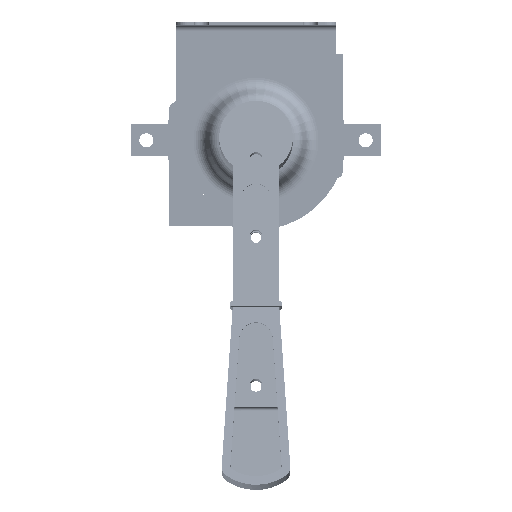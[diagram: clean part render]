
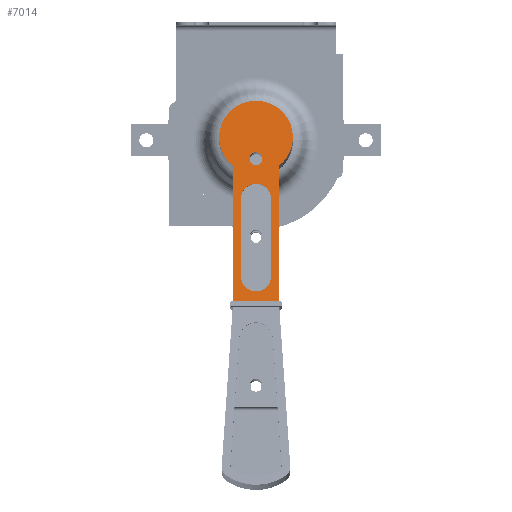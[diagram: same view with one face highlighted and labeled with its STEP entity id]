
A CAD part, left-side view. The second image highlights one B-rep face of the part: STEP entity #7014.
In plain terms, the highlighted planar face has unit normal (-0.992, 0, 0.128) as drawn and (0, -1, 0) by its records, which use the part's own axes.
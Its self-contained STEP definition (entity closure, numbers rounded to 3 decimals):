
#2685 = CIRCLE ( 'NONE', #14046, 7. ) ;
#3406 = EDGE_CURVE ( 'NONE', #15334, #81873, #38505, .T. ) ;
#3743 = EDGE_CURVE ( 'NONE', #81873, #26902, #5413, .T. ) ;
#4216 = CARTESIAN_POINT ( 'NONE',  ( -19.465, -4.79, 0. ) ) ;
#5413 = CIRCLE ( 'NONE', #14124, 17. ) ;
#6767 = CARTESIAN_POINT ( 'NONE',  ( 45.166, -4.79, -7. ) ) ;
#7014 = ADVANCED_FACE ( 'NONE', ( #76955, #57586, #75509 ), #55670, .F. ) ;
#7155 = LINE ( 'NONE', #79282, #105896 ) ;
#7970 = AXIS2_PLACEMENT_3D ( 'NONE', #92792, #102876, #74811 ) ;
#8261 = LINE ( 'NONE', #33878, #106971 ) ;
#10214 = DIRECTION ( 'NONE',  ( 0., 0., -1. ) ) ;
#10816 = DIRECTION ( 'NONE',  ( 1., 0., 0. ) ) ;
#13650 = EDGE_CURVE ( 'NONE', #26902, #46901, #7155, .T. ) ;
#14046 = AXIS2_PLACEMENT_3D ( 'NONE', #57886, #67441, #10214 ) ;
#14124 = AXIS2_PLACEMENT_3D ( 'NONE', #19935, #39175, #67528 ) ;
#14739 = EDGE_CURVE ( 'NONE', #27819, #16610, #16044, .T. ) ;
#15123 = DIRECTION ( 'NONE',  ( 0., 0., -1. ) ) ;
#15315 = DIRECTION ( 'NONE',  ( 0., 0., -1. ) ) ;
#15334 = VERTEX_POINT ( 'NONE', #71168 ) ;
#16044 = LINE ( 'NONE', #39130, #102777 ) ;
#16610 = VERTEX_POINT ( 'NONE', #40618 ) ;
#18439 = AXIS2_PLACEMENT_3D ( 'NONE', #94353, #122348, #75524 ) ;
#19935 = CARTESIAN_POINT ( 'NONE',  ( -19.465, -4.79, 0. ) ) ;
#22095 = AXIS2_PLACEMENT_3D ( 'NONE', #110811, #62342, #15123 ) ;
#23448 = DIRECTION ( 'NONE',  ( 1., 0., 0. ) ) ;
#25473 = DIRECTION ( 'NONE',  ( -1., 0., 0. ) ) ;
#25703 = VERTEX_POINT ( 'NONE', #47526 ) ;
#26902 = VERTEX_POINT ( 'NONE', #105041 ) ;
#27819 = VERTEX_POINT ( 'NONE', #107770 ) ;
#28189 = ORIENTED_EDGE ( 'NONE', *, *, #13650, .T. ) ;
#29107 = LINE ( 'NONE', #72540, #67870 ) ;
#29267 = EDGE_CURVE ( 'NONE', #76009, #46901, #29107, .T. ) ;
#33260 = CARTESIAN_POINT ( 'NONE',  ( 56.666, -4.79, -10.75 ) ) ;
#33410 = CARTESIAN_POINT ( 'NONE',  ( 45.166, -4.79, 0. ) ) ;
#33878 = CARTESIAN_POINT ( 'NONE',  ( -35.334, -4.79, 10.75 ) ) ;
#38505 = CIRCLE ( 'NONE', #42208, 17. ) ;
#39130 = CARTESIAN_POINT ( 'NONE',  ( 45.166, -4.79, 7. ) ) ;
#39175 = DIRECTION ( 'NONE',  ( 0., -1., 0. ) ) ;
#40618 = CARTESIAN_POINT ( 'NONE',  ( 9.166, -4.79, 7. ) ) ;
#41118 = CARTESIAN_POINT ( 'NONE',  ( -6.295, -4.79, 10.75 ) ) ;
#42208 = AXIS2_PLACEMENT_3D ( 'NONE', #4216, #71093, #109534 ) ;
#45758 = CARTESIAN_POINT ( 'NONE',  ( 56.666, -4.79, 10.75 ) ) ;
#45912 = EDGE_CURVE ( 'NONE', #16610, #25703, #2685, .T. ) ;
#46527 = ORIENTED_EDGE ( 'NONE', *, *, #89017, .T. ) ;
#46901 = VERTEX_POINT ( 'NONE', #33260 ) ;
#47015 = EDGE_CURVE ( 'NONE', #104855, #15334, #47395, .T. ) ;
#47395 = CIRCLE ( 'NONE', #97381, 17. ) ;
#47526 = CARTESIAN_POINT ( 'NONE',  ( 9.166, -4.79, -7. ) ) ;
#47888 = EDGE_CURVE ( 'NONE', #25703, #99075, #66762, .T. ) ;
#51855 = CIRCLE ( 'NONE', #22095, 3. ) ;
#53424 = DIRECTION ( 'NONE',  ( 0., 0., -1. ) ) ;
#55670 = PLANE ( 'NONE',  #7970 ) ;
#55695 = CARTESIAN_POINT ( 'NONE',  ( -19.465, -4.79, -17. ) ) ;
#57137 = DIRECTION ( 'NONE',  ( -1., 0., 0. ) ) ;
#57169 = VERTEX_POINT ( 'NONE', #85200 ) ;
#57586 = FACE_OUTER_BOUND ( 'NONE', #84378, .T. ) ;
#57886 = CARTESIAN_POINT ( 'NONE',  ( 9.166, -4.79, 0. ) ) ;
#59246 = VECTOR ( 'NONE', #23448, 1000. ) ;
#60891 = ORIENTED_EDGE ( 'NONE', *, *, #3406, .T. ) ;
#62342 = DIRECTION ( 'NONE',  ( 0., -1., 0. ) ) ;
#66762 = LINE ( 'NONE', #99128, #59246 ) ;
#67441 = DIRECTION ( 'NONE',  ( 0., -1., 0. ) ) ;
#67528 = DIRECTION ( 'NONE',  ( 0., 0., -1. ) ) ;
#67870 = VECTOR ( 'NONE', #15315, 1000. ) ;
#68425 = ORIENTED_EDGE ( 'NONE', *, *, #47015, .T. ) ;
#71093 = DIRECTION ( 'NONE',  ( 0., -1., 0. ) ) ;
#71168 = CARTESIAN_POINT ( 'NONE',  ( -19.465, -4.79, 17. ) ) ;
#71220 = EDGE_LOOP ( 'NONE', ( #113995, #92127, #81276, #74018 ) ) ;
#72540 = CARTESIAN_POINT ( 'NONE',  ( 56.666, -4.79, 17. ) ) ;
#73692 = CARTESIAN_POINT ( 'NONE',  ( -19.465, -4.79, 0. ) ) ;
#74018 = ORIENTED_EDGE ( 'NONE', *, *, #106503, .F. ) ;
#74811 = DIRECTION ( 'NONE',  ( 0., 0., 1. ) ) ;
#75509 = FACE_BOUND ( 'NONE', #71220, .T. ) ;
#75524 = DIRECTION ( 'NONE',  ( 0., 0., -1. ) ) ;
#76009 = VERTEX_POINT ( 'NONE', #45758 ) ;
#76955 = FACE_BOUND ( 'NONE', #81215, .T. ) ;
#79282 = CARTESIAN_POINT ( 'NONE',  ( -35.334, -4.79, -10.75 ) ) ;
#81215 = EDGE_LOOP ( 'NONE', ( #97285, #92573 ) ) ;
#81276 = ORIENTED_EDGE ( 'NONE', *, *, #14739, .F. ) ;
#81873 = VERTEX_POINT ( 'NONE', #55695 ) ;
#83461 = VERTEX_POINT ( 'NONE', #123788 ) ;
#84378 = EDGE_LOOP ( 'NONE', ( #68425, #60891, #85824, #28189, #114015, #46527 ) ) ;
#84712 = CIRCLE ( 'NONE', #106277, 7. ) ;
#85200 = CARTESIAN_POINT ( 'NONE',  ( -9.534, -4.79, -3. ) ) ;
#85824 = ORIENTED_EDGE ( 'NONE', *, *, #3743, .T. ) ;
#87738 = EDGE_CURVE ( 'NONE', #83461, #57169, #51855, .T. ) ;
#89017 = EDGE_CURVE ( 'NONE', #76009, #104855, #8261, .T. ) ;
#92074 = DIRECTION ( 'NONE',  ( 0., -1., 0. ) ) ;
#92127 = ORIENTED_EDGE ( 'NONE', *, *, #45912, .F. ) ;
#92573 = ORIENTED_EDGE ( 'NONE', *, *, #87738, .F. ) ;
#92792 = CARTESIAN_POINT ( 'NONE',  ( -35.334, -4.79, 17. ) ) ;
#93995 = EDGE_CURVE ( 'NONE', #57169, #83461, #121494, .T. ) ;
#94353 = CARTESIAN_POINT ( 'NONE',  ( -9.534, -4.79, 0. ) ) ;
#97285 = ORIENTED_EDGE ( 'NONE', *, *, #93995, .F. ) ;
#97381 = AXIS2_PLACEMENT_3D ( 'NONE', #73692, #92074, #120925 ) ;
#99075 = VERTEX_POINT ( 'NONE', #6767 ) ;
#99128 = CARTESIAN_POINT ( 'NONE',  ( 9.166, -4.79, -7. ) ) ;
#102777 = VECTOR ( 'NONE', #57137, 1000. ) ;
#102876 = DIRECTION ( 'NONE',  ( 0., 1., 0. ) ) ;
#104855 = VERTEX_POINT ( 'NONE', #41118 ) ;
#105041 = CARTESIAN_POINT ( 'NONE',  ( -6.295, -4.79, -10.75 ) ) ;
#105896 = VECTOR ( 'NONE', #10816, 1000. ) ;
#106277 = AXIS2_PLACEMENT_3D ( 'NONE', #33410, #109400, #53424 ) ;
#106503 = EDGE_CURVE ( 'NONE', #99075, #27819, #84712, .T. ) ;
#106971 = VECTOR ( 'NONE', #25473, 1000. ) ;
#107770 = CARTESIAN_POINT ( 'NONE',  ( 45.166, -4.79, 7. ) ) ;
#109400 = DIRECTION ( 'NONE',  ( 0., -1., 0. ) ) ;
#109534 = DIRECTION ( 'NONE',  ( 0., 0., -1. ) ) ;
#110811 = CARTESIAN_POINT ( 'NONE',  ( -9.534, -4.79, 0. ) ) ;
#113995 = ORIENTED_EDGE ( 'NONE', *, *, #47888, .F. ) ;
#114015 = ORIENTED_EDGE ( 'NONE', *, *, #29267, .F. ) ;
#120925 = DIRECTION ( 'NONE',  ( 0., 0., -1. ) ) ;
#121494 = CIRCLE ( 'NONE', #18439, 3. ) ;
#122348 = DIRECTION ( 'NONE',  ( 0., -1., 0. ) ) ;
#123788 = CARTESIAN_POINT ( 'NONE',  ( -9.534, -4.79, 3. ) ) ;
